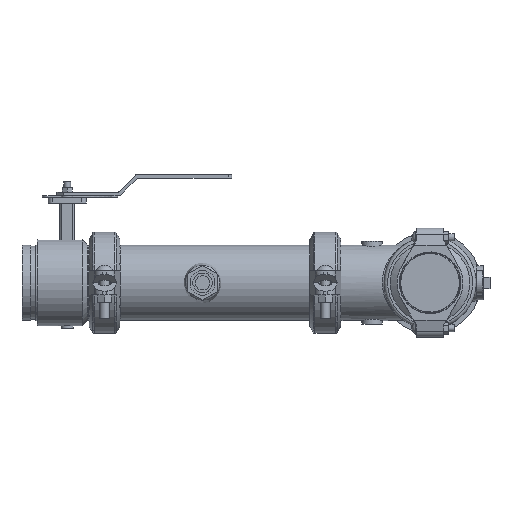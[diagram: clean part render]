
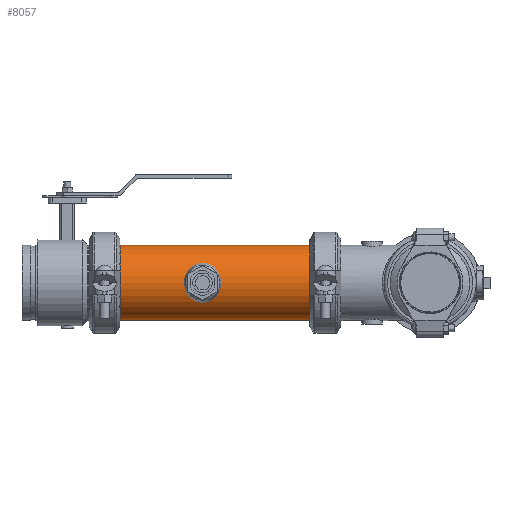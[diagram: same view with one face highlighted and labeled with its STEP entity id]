
A CAD part, left-side view. The second image highlights one B-rep face of the part: STEP entity #8057.
In plain terms, the highlighted cylindrical face has radius 69.85 mm (diameter 139.7 mm), a full revolution.
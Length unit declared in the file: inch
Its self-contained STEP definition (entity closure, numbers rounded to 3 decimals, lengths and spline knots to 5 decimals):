
#687=FACE_OUTER_BOUND('',#1177,.T.);
#1177=EDGE_LOOP('',(#5932,#5933,#5934,#5935,#5936,#5937));
#1715=CIRCLE('',#8892,2.75);
#1716=CIRCLE('',#8893,2.75);
#1717=CIRCLE('',#8895,2.75);
#1718=CIRCLE('',#8896,2.75);
#2176=LINE('',#13773,#2761);
#2761=VECTOR('',#10444,2.75);
#3455=VERTEX_POINT('',#13764);
#3456=VERTEX_POINT('',#13765);
#3457=VERTEX_POINT('',#13769);
#3458=VERTEX_POINT('',#13770);
#4353=EDGE_CURVE('',#3455,#3456,#1715,.T.);
#4354=EDGE_CURVE('',#3456,#3455,#1716,.T.);
#4355=EDGE_CURVE('',#3457,#3458,#1717,.T.);
#4356=EDGE_CURVE('',#3458,#3457,#1718,.T.);
#4357=EDGE_CURVE('',#3458,#3456,#2176,.T.);
#5932=ORIENTED_EDGE('',*,*,#4355,.F.);
#5933=ORIENTED_EDGE('',*,*,#4356,.F.);
#5934=ORIENTED_EDGE('',*,*,#4357,.T.);
#5935=ORIENTED_EDGE('',*,*,#4354,.T.);
#5936=ORIENTED_EDGE('',*,*,#4353,.T.);
#5937=ORIENTED_EDGE('',*,*,#4357,.F.);
#7345=CYLINDRICAL_SURFACE('',#8894,2.75);
#8057=ADVANCED_FACE('',(#687),#7345,.T.);
#8892=AXIS2_PLACEMENT_3D('',#13766,#10434,#10435);
#8893=AXIS2_PLACEMENT_3D('',#13767,#10436,#10437);
#8894=AXIS2_PLACEMENT_3D('',#13768,#10438,#10439);
#8895=AXIS2_PLACEMENT_3D('',#13771,#10440,#10441);
#8896=AXIS2_PLACEMENT_3D('',#13772,#10442,#10443);
#10434=DIRECTION('center_axis',(0.,-1.,0.));
#10435=DIRECTION('ref_axis',(1.,0.,0.));
#10436=DIRECTION('center_axis',(0.,-1.,0.));
#10437=DIRECTION('ref_axis',(1.,0.,0.));
#10438=DIRECTION('center_axis',(0.,-1.,0.));
#10439=DIRECTION('ref_axis',(1.,0.,0.));
#10440=DIRECTION('center_axis',(0.,-1.,0.));
#10441=DIRECTION('ref_axis',(1.,0.,0.));
#10442=DIRECTION('center_axis',(0.,-1.,0.));
#10443=DIRECTION('ref_axis',(1.,0.,0.));
#10444=DIRECTION('',(0.,1.,0.));
#13764=CARTESIAN_POINT('',(2.75,6.91,0.));
#13765=CARTESIAN_POINT('',(-2.75,6.91,0.));
#13766=CARTESIAN_POINT('Origin',(0.,6.91,0.));
#13767=CARTESIAN_POINT('Origin',(0.,6.91,0.));
#13768=CARTESIAN_POINT('Origin',(0.,0.,
0.));
#13769=CARTESIAN_POINT('',(2.75,-6.91,0.));
#13770=CARTESIAN_POINT('',(-2.75,-6.91,0.));
#13771=CARTESIAN_POINT('Origin',(0.,-6.91,0.));
#13772=CARTESIAN_POINT('Origin',(0.,-6.91,0.));
#13773=CARTESIAN_POINT('',(-2.75,0.,0.));
